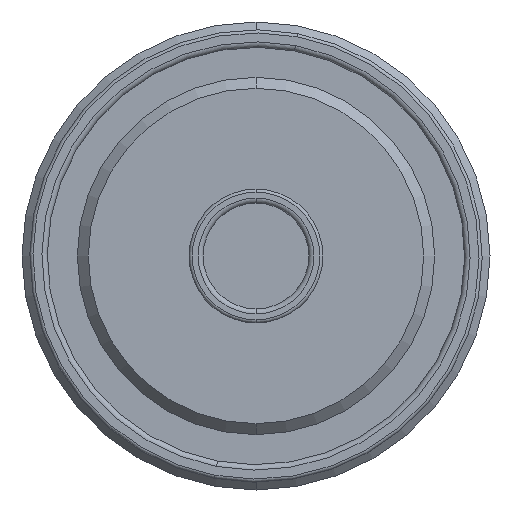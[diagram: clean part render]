
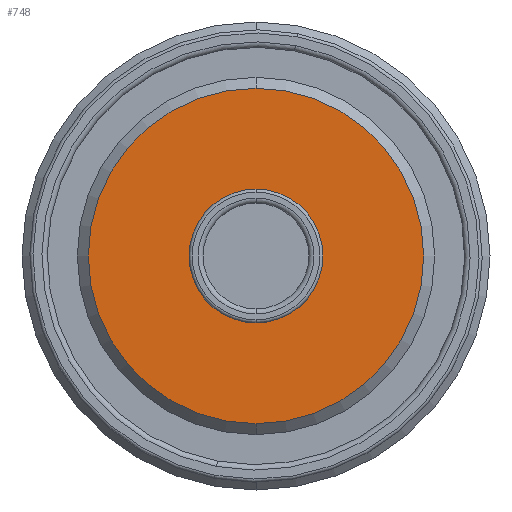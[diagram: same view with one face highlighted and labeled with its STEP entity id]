
A CAD part, front view. The second image highlights one B-rep face of the part: STEP entity #748.
In plain terms, the highlighted planar face has unit normal (0, -1, 0).
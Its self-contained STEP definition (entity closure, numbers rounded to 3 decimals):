
#219=PLANE('',#3281);
#264=FACE_BOUND('',#1167,.T.);
#265=FACE_BOUND('',#1168,.T.);
#748=ADVANCED_FACE('',(#264,#265),#219,.T.);
#1167=EDGE_LOOP('',(#1526,#1527));
#1168=EDGE_LOOP('',(#1528,#1529));
#1526=ORIENTED_EDGE('',*,*,#2624,.T.);
#1527=ORIENTED_EDGE('',*,*,#2556,.T.);
#1528=ORIENTED_EDGE('',*,*,#2552,.F.);
#1529=ORIENTED_EDGE('',*,*,#2625,.F.);
#2272=VERTEX_POINT('',#4809);
#2273=VERTEX_POINT('',#4810);
#2276=VERTEX_POINT('',#4818);
#2277=VERTEX_POINT('',#4819);
#2552=EDGE_CURVE('',#2272,#2273,#2966,.T.);
#2556=EDGE_CURVE('',#2276,#2277,#2968,.T.);
#2624=EDGE_CURVE('',#2277,#2276,#2990,.T.);
#2625=EDGE_CURVE('',#2273,#2272,#2991,.T.);
#2966=CIRCLE('',#3239,21.5);
#2968=CIRCLE('',#3242,8.58);
#2990=CIRCLE('',#3278,8.58);
#2991=CIRCLE('',#3280,21.5);
#3239=AXIS2_PLACEMENT_3D('',#4808,#3777,#3778);
#3242=AXIS2_PLACEMENT_3D('',#4817,#3785,#3786);
#3278=AXIS2_PLACEMENT_3D('',#5193,#3875,#3876);
#3280=AXIS2_PLACEMENT_3D('',#5195,#3879,#3880);
#3281=AXIS2_PLACEMENT_3D('',#5196,#3881,#3882);
#3777=DIRECTION('',(0.,1.,0.));
#3778=DIRECTION('',(0.,0.,1.));
#3785=DIRECTION('',(0.,1.,0.));
#3786=DIRECTION('',(0.,0.,1.));
#3875=DIRECTION('',(0.,1.,0.));
#3876=DIRECTION('',(0.,0.,1.));
#3879=DIRECTION('',(0.,1.,0.));
#3880=DIRECTION('',(0.,0.,1.));
#3881=DIRECTION('',(0.,-1.,0.));
#3882=DIRECTION('',(0.,0.,1.));
#4808=CARTESIAN_POINT('',(0.,-1.3,0.));
#4809=CARTESIAN_POINT('',(0.,-1.3,21.5));
#4810=CARTESIAN_POINT('',(0.,-1.3,-21.5));
#4817=CARTESIAN_POINT('',(0.,-1.3,0.));
#4818=CARTESIAN_POINT('',(0.,-1.3,-8.58));
#4819=CARTESIAN_POINT('',(0.,-1.3,8.58));
#5193=CARTESIAN_POINT('',(0.,-1.3,0.));
#5195=CARTESIAN_POINT('',(0.,-1.3,0.));
#5196=CARTESIAN_POINT('',(0.,-1.3,0.));
